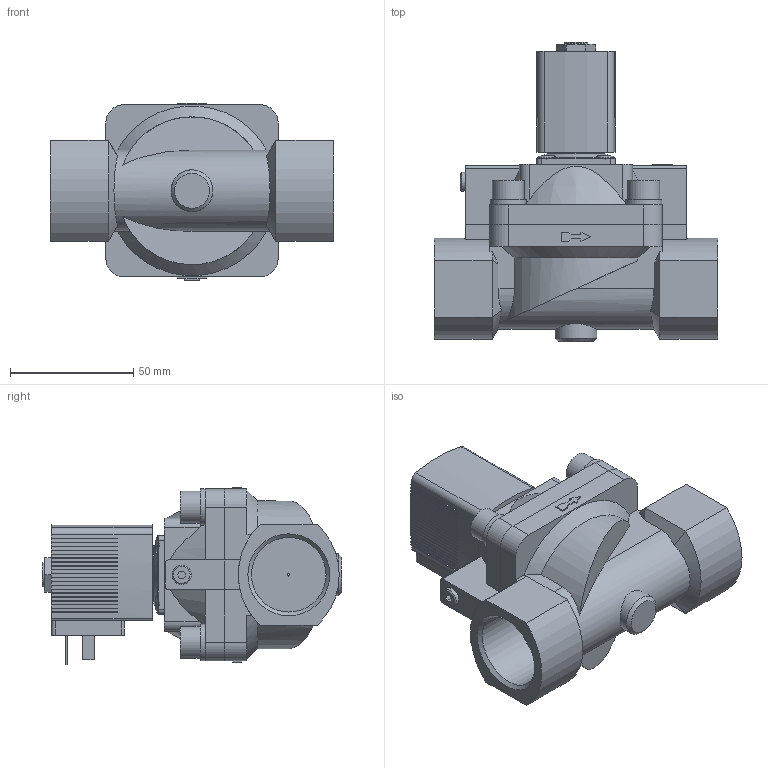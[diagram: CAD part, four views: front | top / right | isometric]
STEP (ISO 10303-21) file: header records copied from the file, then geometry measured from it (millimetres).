
FILE_DESCRIPTION(/* description */ ('STEP AP214'),/* implementation_level */ '2;1');
FILE_NAME(/* name */ '5404-295612-Servo-assisted_2_2_way_piston_valve',/* time_stamp */ '2024-02-29T11:32:50+01:00',/* author */ ('License CC BY-ND 4.0'),/* organization */ ('CADENAS'),/* preprocessor_version */ 'ST-DEVELOPER v19.3',/* originating_system */ 'PARTsolutions',/* authorisation */ ' ');
FILE_SCHEMA (('AUTOMOTIVE_DESIGN {1 0 10303 214 3 1 1}'));
Length unit declared in the file: millimetre
Products named in the file (4): 5404-295612-Servo-assisted 2/2 way piston valve; 5282g-8625MS000-2/2-Wege-Magnetventil_Gehaeuse; 5282d-25MSAU3J-2/2-Wege-Magnetventil_Deckel; AC10ex-5OO-Plan-Coil
Assembly tree (3 placements, depth 2):
  5404-295612-Servo-assisted 2/2 way piston valve
    5282g-8625MS000-2/2-Wege-Magnetventil_Gehaeuse
    5282d-25MSAU3J-2/2-Wege-Magnetventil_Deckel
    AC10ex-5OO-Plan-Coil
Bounding box: 115 x 121.6 x 72 mm (x, y, z)
Volume: 321160 mm3; surface area: 59651.2 mm2
Topology: 3 solids, 3 shells, 499 faces, 1360 edges, 901 vertices
Faces by surface type: plane 396, cylinder 76, cone 22, torus 5
Full cylindrical faces by diameter (mm): 1 x1, 2.013 x1, 4 x4, 7.5 x4, 7.6 x4, 7.8 x1, 9.74 x1, 13 x4, 14.8 x4, 17 x1, 21 x1, 30.291 x2
Entity records: 17652 total; most frequent: CARTESIAN_POINT 2953, ORIENTED_EDGE 2620, DIRECTION 2526, EDGE_CURVE 1310, LINE 998, VECTOR 998, VERTEX_POINT 890, AXIS2_PLACEMENT_3D 764
